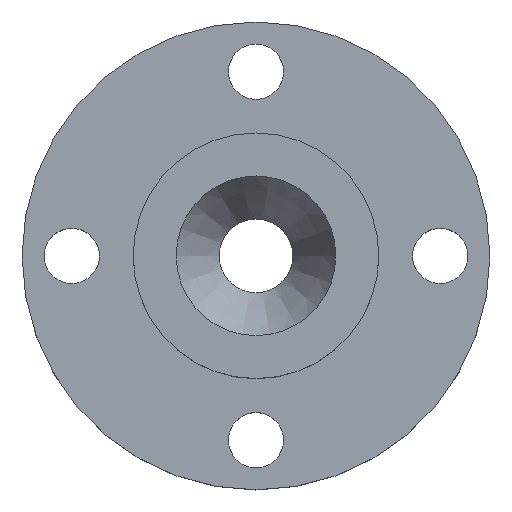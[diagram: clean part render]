
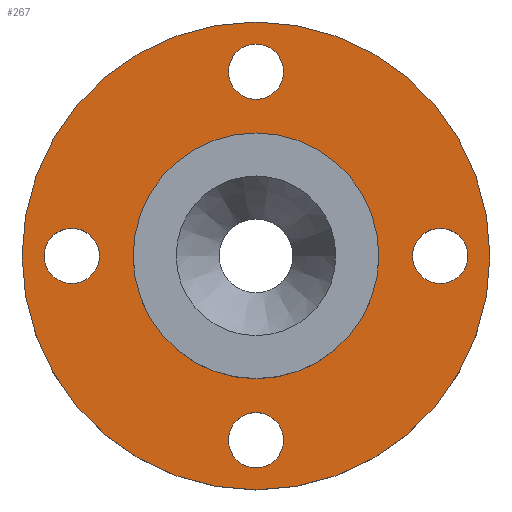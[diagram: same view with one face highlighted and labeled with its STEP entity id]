
A CAD part, top view. The second image highlights one B-rep face of the part: STEP entity #267.
In plain terms, the highlighted planar face has unit normal (0, 0, 1).
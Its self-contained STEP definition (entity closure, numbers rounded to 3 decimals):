
#20=FACE_BOUND('',#58,.T.);
#21=FACE_BOUND('',#59,.T.);
#22=FACE_BOUND('',#60,.T.);
#23=FACE_BOUND('',#61,.T.);
#24=FACE_BOUND('',#62,.T.);
#27=PLANE('',#323);
#40=FACE_OUTER_BOUND('',#57,.T.);
#57=EDGE_LOOP('',(#229,#230));
#58=EDGE_LOOP('',(#231,#232));
#59=EDGE_LOOP('',(#233,#234));
#60=EDGE_LOOP('',(#235,#236));
#61=EDGE_LOOP('',(#237,#238));
#62=EDGE_LOOP('',(#239,#240));
#84=CIRCLE('',#291,4.5);
#85=CIRCLE('',#292,4.5);
#87=CIRCLE('',#295,4.5);
#88=CIRCLE('',#296,4.5);
#90=CIRCLE('',#299,4.5);
#91=CIRCLE('',#300,4.5);
#93=CIRCLE('',#303,4.5);
#94=CIRCLE('',#304,4.5);
#106=CIRCLE('',#321,38.1);
#107=CIRCLE('',#322,38.1);
#108=CIRCLE('',#324,20.);
#109=CIRCLE('',#325,20.);
#112=VERTEX_POINT('',#423);
#113=VERTEX_POINT('',#424);
#115=VERTEX_POINT('',#431);
#116=VERTEX_POINT('',#432);
#118=VERTEX_POINT('',#439);
#119=VERTEX_POINT('',#440);
#121=VERTEX_POINT('',#447);
#122=VERTEX_POINT('',#448);
#134=VERTEX_POINT('',#482);
#135=VERTEX_POINT('',#483);
#136=VERTEX_POINT('',#488);
#137=VERTEX_POINT('',#489);
#140=EDGE_CURVE('',#112,#113,#84,.T.);
#141=EDGE_CURVE('',#113,#112,#85,.T.);
#144=EDGE_CURVE('',#115,#116,#87,.T.);
#145=EDGE_CURVE('',#116,#115,#88,.T.);
#148=EDGE_CURVE('',#118,#119,#90,.T.);
#149=EDGE_CURVE('',#119,#118,#91,.T.);
#152=EDGE_CURVE('',#121,#122,#93,.T.);
#153=EDGE_CURVE('',#122,#121,#94,.T.);
#169=EDGE_CURVE('',#134,#135,#106,.T.);
#170=EDGE_CURVE('',#135,#134,#107,.T.);
#172=EDGE_CURVE('',#136,#137,#108,.T.);
#173=EDGE_CURVE('',#137,#136,#109,.T.);
#229=ORIENTED_EDGE('',*,*,#169,.T.);
#230=ORIENTED_EDGE('',*,*,#170,.T.);
#231=ORIENTED_EDGE('',*,*,#140,.T.);
#232=ORIENTED_EDGE('',*,*,#141,.T.);
#233=ORIENTED_EDGE('',*,*,#144,.T.);
#234=ORIENTED_EDGE('',*,*,#145,.T.);
#235=ORIENTED_EDGE('',*,*,#148,.T.);
#236=ORIENTED_EDGE('',*,*,#149,.T.);
#237=ORIENTED_EDGE('',*,*,#152,.T.);
#238=ORIENTED_EDGE('',*,*,#153,.T.);
#239=ORIENTED_EDGE('',*,*,#172,.F.);
#240=ORIENTED_EDGE('',*,*,#173,.F.);
#267=ADVANCED_FACE('',(#40,#20,#21,#22,#23,#24),#27,.T.);
#291=AXIS2_PLACEMENT_3D('',#425,#334,#335);
#292=AXIS2_PLACEMENT_3D('',#426,#336,#337);
#295=AXIS2_PLACEMENT_3D('',#433,#343,#344);
#296=AXIS2_PLACEMENT_3D('',#434,#345,#346);
#299=AXIS2_PLACEMENT_3D('',#441,#352,#353);
#300=AXIS2_PLACEMENT_3D('',#442,#354,#355);
#303=AXIS2_PLACEMENT_3D('',#449,#361,#362);
#304=AXIS2_PLACEMENT_3D('',#450,#363,#364);
#321=AXIS2_PLACEMENT_3D('',#484,#401,#402);
#322=AXIS2_PLACEMENT_3D('',#485,#403,#404);
#323=AXIS2_PLACEMENT_3D('',#487,#406,#407);
#324=AXIS2_PLACEMENT_3D('',#490,#408,#409);
#325=AXIS2_PLACEMENT_3D('',#491,#410,#411);
#334=DIRECTION('center_axis',(0.,0.,-1.));
#335=DIRECTION('ref_axis',(0.,-1.,0.));
#336=DIRECTION('center_axis',(0.,0.,-1.));
#337=DIRECTION('ref_axis',(0.,-1.,0.));
#343=DIRECTION('center_axis',(0.,0.,-1.));
#344=DIRECTION('ref_axis',(-1.,0.,0.));
#345=DIRECTION('center_axis',(0.,0.,-1.));
#346=DIRECTION('ref_axis',(-1.,0.,0.));
#352=DIRECTION('center_axis',(0.,0.,-1.));
#353=DIRECTION('ref_axis',(0.,1.,0.));
#354=DIRECTION('center_axis',(0.,0.,-1.));
#355=DIRECTION('ref_axis',(0.,1.,0.));
#361=DIRECTION('center_axis',(0.,0.,-1.));
#362=DIRECTION('ref_axis',(1.,0.,0.));
#363=DIRECTION('center_axis',(0.,0.,-1.));
#364=DIRECTION('ref_axis',(1.,0.,0.));
#401=DIRECTION('center_axis',(0.,0.,1.));
#402=DIRECTION('ref_axis',(1.,0.,0.));
#403=DIRECTION('center_axis',(0.,0.,1.));
#404=DIRECTION('ref_axis',(1.,0.,0.));
#406=DIRECTION('center_axis',(0.,0.,1.));
#407=DIRECTION('ref_axis',(1.,0.,0.));
#408=DIRECTION('center_axis',(0.,0.,1.));
#409=DIRECTION('ref_axis',(1.,0.,0.));
#410=DIRECTION('center_axis',(0.,0.,1.));
#411=DIRECTION('ref_axis',(1.,0.,0.));
#423=CARTESIAN_POINT('',(-17.486,-34.5,-3.509));
#424=CARTESIAN_POINT('',(-17.486,-25.5,-3.509));
#425=CARTESIAN_POINT('Origin',(-17.486,-30.,-3.509));
#426=CARTESIAN_POINT('Origin',(-17.486,-30.,-3.509));
#431=CARTESIAN_POINT('',(-51.986,0.,-3.509));
#432=CARTESIAN_POINT('',(-42.986,0.,-3.509));
#433=CARTESIAN_POINT('Origin',(-47.486,0.,-3.509));
#434=CARTESIAN_POINT('Origin',(-47.486,0.,-3.509));
#439=CARTESIAN_POINT('',(-17.486,34.5,-3.509));
#440=CARTESIAN_POINT('',(-17.486,25.5,-3.509));
#441=CARTESIAN_POINT('Origin',(-17.486,30.,-3.509));
#442=CARTESIAN_POINT('Origin',(-17.486,30.,-3.509));
#447=CARTESIAN_POINT('',(17.014,0.,-3.509));
#448=CARTESIAN_POINT('',(8.014,0.,-3.509));
#449=CARTESIAN_POINT('Origin',(12.514,0.,-3.509));
#450=CARTESIAN_POINT('Origin',(12.514,0.,-3.509));
#482=CARTESIAN_POINT('',(20.614,0.,-3.509));
#483=CARTESIAN_POINT('',(-55.586,0.,-3.509));
#484=CARTESIAN_POINT('Origin',(-17.486,0.,-3.509));
#485=CARTESIAN_POINT('Origin',(-17.486,0.,-3.509));
#487=CARTESIAN_POINT('Origin',(11.564,0.,-3.509));
#488=CARTESIAN_POINT('',(2.514,0.,-3.509));
#489=CARTESIAN_POINT('',(-37.486,0.,-3.509));
#490=CARTESIAN_POINT('Origin',(-17.486,0.,-3.509));
#491=CARTESIAN_POINT('Origin',(-17.486,0.,-3.509));
